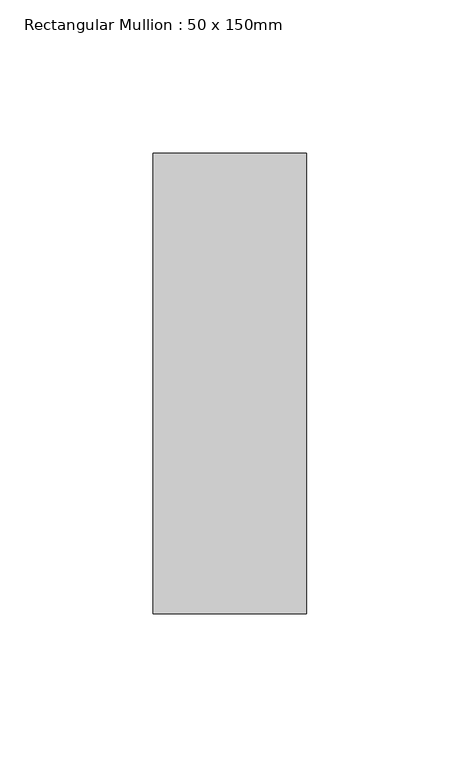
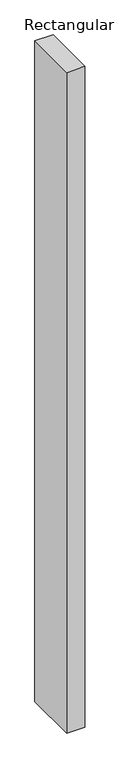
"""IFC4 building model written with IfcOpenShell, lengths in millimetres: member geometry, Rectangular Mullion : 50 x 150mm."""

from ifc_helpers import new_model, si_unit, frame, origin, place, context, project, spatial, polyline, outline, extrude, source, transform, mapped, element, save


def rectangular_mullion_50_x_150mm_e5e11441(model_context):
    return source(origin(), model_context, "Body", "SweptSolid", [
        extrude(outline(polyline([(0.0, 75.0), (0.0, -75.0), (-50.0, -75.0), (-50.0, 75.0), (0.0, 75.0)])), frame((0.0, 0.0, -1905.1035061), z_axis=(0.0, 0.0, 1.0), x_axis=(1.0, 0.0, 0.0)), (0.0, 0.0, 1.0), 1905.1035061),
    ])


if __name__ == "__main__":
    model = new_model("IFC4")
    model_context = context("Model", 3, world=origin())
    ifc_project = project(units=[si_unit("LENGTHUNIT", "METRE", prefix="MILLI")], contexts=[model_context])
    site = spatial("IfcSite", under=ifc_project)
    building = spatial("IfcBuilding", under=site)
    placement = place(None, origin())
    rectangular_mullion_50_x_150mm_shape = rectangular_mullion_50_x_150mm_e5e11441(model_context)
    element("IfcMember", 1, ObjectType="Rectangular Mullion : 50 x 150mm", at=placement, inside=building, context=model_context, shape_type="MappedRepresentation", body=[
        mapped(rectangular_mullion_50_x_150mm_shape, transform((0.0, 0.0, 0.0), x_axis=(1.0, 0.0, 0.0), y_axis=(0.0, 1.0, 0.0), z_axis=(0.0, 0.0, 1.0))),
    ])
    save(model, "model.ifc")
